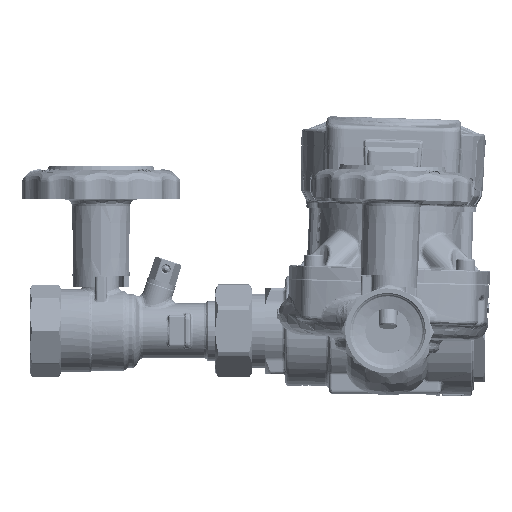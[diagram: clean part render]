
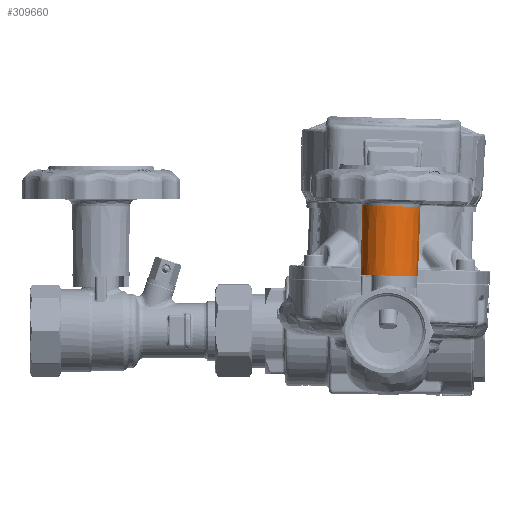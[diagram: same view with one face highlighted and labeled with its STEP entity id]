
A CAD part, left-side view. The second image highlights one B-rep face of the part: STEP entity #309660.
In plain terms, the highlighted conical face has half-angle 0.5 degrees and reference radius 13.021 mm.
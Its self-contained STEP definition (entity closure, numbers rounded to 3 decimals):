
#11040 = CIRCLE ( 'NONE', #168584, 12.75 ) ;
#13967 = CARTESIAN_POINT ( 'NONE',  ( -2.5, 0., -12.503 ) ) ;
#14201 = EDGE_CURVE ( 'NONE', #87738, #266735, #185314, .T. ) ;
#32939 = CARTESIAN_POINT ( 'NONE',  ( -12.75, 0., 0. ) ) ;
#34151 = CARTESIAN_POINT ( 'NONE',  ( 0., 0., 0. ) ) ;
#34208 = CARTESIAN_POINT ( 'NONE',  ( -12.258, 0., -3.725 ) ) ;
#45831 = DIRECTION ( 'NONE',  ( -0.009, 1., 0. ) ) ;
#47582 = CARTESIAN_POINT ( 'NONE',  ( -13.021, 31.026, 0. ) ) ;
#49712 = ORIENTED_EDGE ( 'NONE', *, *, #197512, .T. ) ;
#52646 = AXIS2_PLACEMENT_3D ( 'NONE', #311814, #232430, #70316 ) ;
#54547 = VERTEX_POINT ( 'NONE', #260779 ) ;
#55728 = DIRECTION ( 'NONE',  ( 0., 0., 1. ) ) ;
#58224 = EDGE_LOOP ( 'NONE', ( #133512, #283574, #261296, #132818, #301693, #49712, #330813 ) ) ;
#60661 = CARTESIAN_POINT ( 'NONE',  ( -2.5, 0., -12.503 ) ) ;
#68797 = VERTEX_POINT ( 'NONE', #189469 ) ;
#70316 = DIRECTION ( 'NONE',  ( 0., 0., 1. ) ) ;
#87738 = VERTEX_POINT ( 'NONE', #13967 ) ;
#97724 = CIRCLE ( 'NONE', #52646, 13.021 ) ;
#100521 = EDGE_CURVE ( 'NONE', #54547, #114787, #194906, .T. ) ;
#114787 = VERTEX_POINT ( 'NONE', #121138 ) ;
#117028 = CARTESIAN_POINT ( 'NONE',  ( -12.503, 0., -2.5 ) ) ;
#118107 = EDGE_CURVE ( 'NONE', #68797, #114787, #97724, .T. ) ;
#121138 = CARTESIAN_POINT ( 'NONE',  ( 13.021, 31.026, 0. ) ) ;
#126907 = LINE ( 'NONE', #47582, #247387 ) ;
#129108 = DIRECTION ( 'NONE',  ( 0., 1., 0. ) ) ;
#129118 = CARTESIAN_POINT ( 'NONE',  ( -13.021, 31.026, 0. ) ) ;
#132818 = ORIENTED_EDGE ( 'NONE', *, *, #134353, .T. ) ;
#133512 = ORIENTED_EDGE ( 'NONE', *, *, #100521, .F. ) ;
#134353 = EDGE_CURVE ( 'NONE', #266735, #333885, #168145, .T. ) ;
#134854 = EDGE_CURVE ( 'NONE', #333885, #272115, #126907, .T. ) ;
#136173 = CARTESIAN_POINT ( 'NONE',  ( 0., 0., 0. ) ) ;
#142019 = CARTESIAN_POINT ( 'NONE',  ( 0., 31.026, 0. ) ) ;
#142063 = DIRECTION ( 'NONE',  ( 0.009, 1., 0. ) ) ;
#163243 = DIRECTION ( 'NONE',  ( 0., -1., 0. ) ) ;
#168145 = CIRCLE ( 'NONE', #179444, 12.75 ) ;
#168164 = CARTESIAN_POINT ( 'NONE',  ( -8.132, 0., -9.9 ) ) ;
#168584 = AXIS2_PLACEMENT_3D ( 'NONE', #136173, #324857, #330080 ) ;
#169319 = CONICAL_SURFACE ( 'NONE', #208521, 13.021, 0.009 ) ;
#169886 = CARTESIAN_POINT ( 'NONE',  ( -3.725, 0., -12.258 ) ) ;
#172586 = CIRCLE ( 'NONE', #200718, 13.021 ) ;
#175060 = CARTESIAN_POINT ( 'NONE',  ( -9.9, 0., -8.132 ) ) ;
#179444 = AXIS2_PLACEMENT_3D ( 'NONE', #34151, #330334, #226161 ) ;
#181977 = CARTESIAN_POINT ( 'NONE',  ( 0., 31.026, 0. ) ) ;
#185314 = B_SPLINE_CURVE_WITH_KNOTS ( 'NONE', 3,
 ( #60661, #169886, #309100, #280898, #168164, #175060, #279161, #275712, #34208, #117028 ),
 .UNSPECIFIED., .F., .F.,
 ( 4, 2, 2, 2, 4 ),
 ( 0., 0.25, 0.5, 0.75, 1. ),
 .UNSPECIFIED. ) ;
#189469 = CARTESIAN_POINT ( 'NONE',  ( 0., 31.026, -13.021 ) ) ;
#194906 = LINE ( 'NONE', #196656, #294371 ) ;
#196656 = CARTESIAN_POINT ( 'NONE',  ( 13.021, 31.026, 0. ) ) ;
#197512 = EDGE_CURVE ( 'NONE', #272115, #68797, #172586, .T. ) ;
#200718 = AXIS2_PLACEMENT_3D ( 'NONE', #142019, #163243, #55728 ) ;
#208521 = AXIS2_PLACEMENT_3D ( 'NONE', #181977, #129108, #210122 ) ;
#210122 = DIRECTION ( 'NONE',  ( -1., 0., 0. ) ) ;
#226161 = DIRECTION ( 'NONE',  ( -1., 0., 0. ) ) ;
#232430 = DIRECTION ( 'NONE',  ( 0., -1., 0. ) ) ;
#238334 = FACE_OUTER_BOUND ( 'NONE', #58224, .T. ) ;
#247387 = VECTOR ( 'NONE', #45831, 1000. ) ;
#259717 = CARTESIAN_POINT ( 'NONE',  ( -12.503, 0., -2.5 ) ) ;
#260779 = CARTESIAN_POINT ( 'NONE',  ( 12.75, 0., 0. ) ) ;
#261296 = ORIENTED_EDGE ( 'NONE', *, *, #14201, .T. ) ;
#266735 = VERTEX_POINT ( 'NONE', #259717 ) ;
#272115 = VERTEX_POINT ( 'NONE', #129118 ) ;
#275712 = CARTESIAN_POINT ( 'NONE',  ( -11.832, 0., -4.914 ) ) ;
#279161 = CARTESIAN_POINT ( 'NONE',  ( -10.652, 0., -7.118 ) ) ;
#280898 = CARTESIAN_POINT ( 'NONE',  ( -7.118, 0., -10.652 ) ) ;
#283574 = ORIENTED_EDGE ( 'NONE', *, *, #345331, .T. ) ;
#294371 = VECTOR ( 'NONE', #142063, 1000. ) ;
#301693 = ORIENTED_EDGE ( 'NONE', *, *, #134854, .T. ) ;
#309100 = CARTESIAN_POINT ( 'NONE',  ( -4.914, 0., -11.832 ) ) ;
#309660 = ADVANCED_FACE ( 'NONE', ( #238334 ), #169319, .T. ) ;
#311814 = CARTESIAN_POINT ( 'NONE',  ( 0., 31.026, 0. ) ) ;
#324857 = DIRECTION ( 'NONE',  ( 0., 1., 0. ) ) ;
#330080 = DIRECTION ( 'NONE',  ( -1., 0., 0. ) ) ;
#330334 = DIRECTION ( 'NONE',  ( 0., 1., 0. ) ) ;
#330813 = ORIENTED_EDGE ( 'NONE', *, *, #118107, .T. ) ;
#333885 = VERTEX_POINT ( 'NONE', #32939 ) ;
#345331 = EDGE_CURVE ( 'NONE', #54547, #87738, #11040, .T. ) ;
